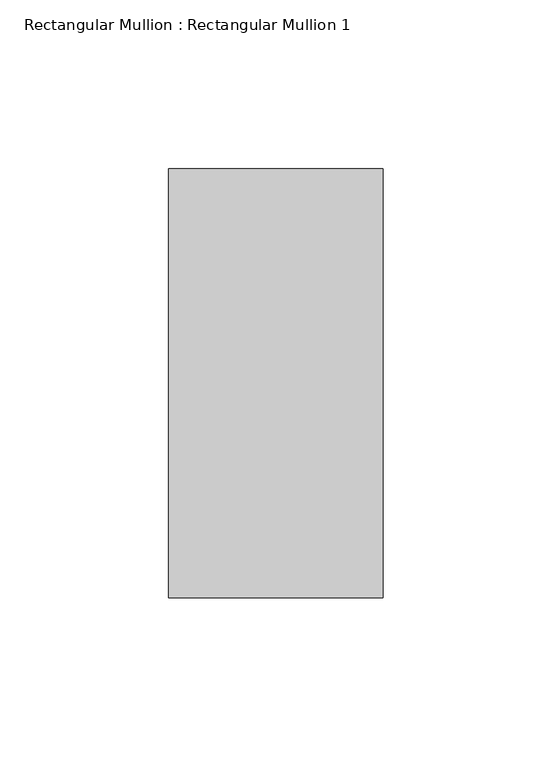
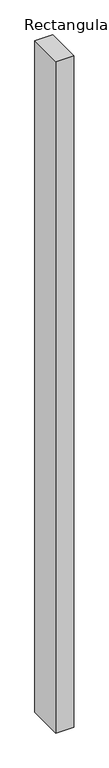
"""IFC4 building model written with IfcOpenShell, lengths in millimetres: member geometry, Rectangular Mullion : Rectangular Mullion 1."""

from ifc_helpers import new_model, si_unit, frame, origin, place, context, project, spatial, polyline, outline, extrude, source, transform, mapped, element, save


def rectangular_mullion_rectangular_mullion_1_a7018825(model_context):
    return source(origin(), model_context, "Body", "SweptSolid", [
        extrude(outline(polyline([(0.0, 63.5), (0.0, -63.5), (-63.5, -63.5), (-63.5, 63.5), (0.0, 63.5)])), frame((0.0, 0.0, -2500.0), z_axis=(0.0, 0.0, 1.0), x_axis=(1.0, 0.0, 0.0)), (0.0, 0.0, 1.0), 2500.0),
    ])


if __name__ == "__main__":
    model = new_model("IFC4")
    model_context = context("Model", 3, world=origin())
    ifc_project = project(units=[si_unit("LENGTHUNIT", "METRE", prefix="MILLI")], contexts=[model_context])
    site = spatial("IfcSite", under=ifc_project)
    building = spatial("IfcBuilding", under=site)
    placement = place(None, origin())
    rectangular_mullion_rectangular_mullion_1_shape = rectangular_mullion_rectangular_mullion_1_a7018825(model_context)
    element("IfcMember", 1, ObjectType="Rectangular Mullion : Rectangular Mullion 1", at=placement, inside=building, context=model_context, shape_type="MappedRepresentation", body=[
        mapped(rectangular_mullion_rectangular_mullion_1_shape, transform((0.0, 0.0, 0.0), x_axis=(1.0, 0.0, 0.0), y_axis=(0.0, 1.0, 0.0), z_axis=(0.0, 0.0, 1.0))),
    ])
    save(model, "model.ifc")
